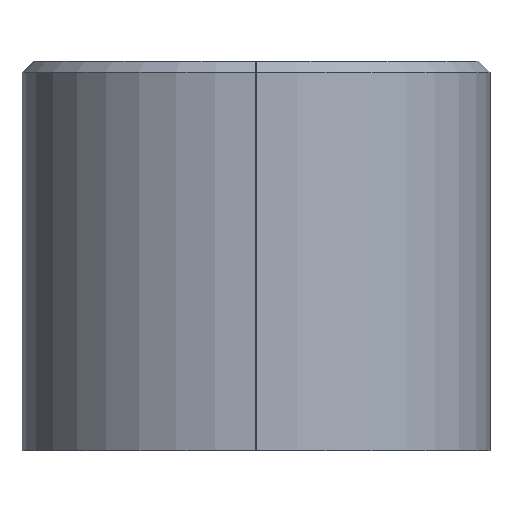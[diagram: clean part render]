
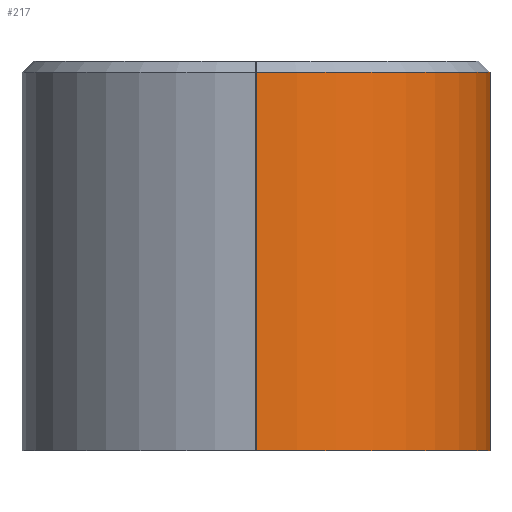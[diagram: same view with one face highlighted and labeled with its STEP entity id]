
A CAD part, left-side view. The second image highlights one B-rep face of the part: STEP entity #217.
In plain terms, the highlighted cylindrical face has radius 23.125 mm (diameter 46.25 mm), a partial arc.
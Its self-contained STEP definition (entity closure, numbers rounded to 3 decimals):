
#22 = VERTEX_POINT('',#23);
#23 = CARTESIAN_POINT('',(-182.985,-0.01,92.4));
#32 = PLANE('',#33);
#33 = AXIS2_PLACEMENT_3D('',#34,#35,#36);
#34 = CARTESIAN_POINT('',(-182.985,-23.135,55.));
#35 = DIRECTION('',(1.,0.,0.));
#36 = DIRECTION('',(0.,0.,1.));
#56 = EDGE_CURVE('',#57,#22,#59,.T.);
#57 = VERTEX_POINT('',#58);
#58 = CARTESIAN_POINT('',(-182.985,-0.01,55.));
#59 = SURFACE_CURVE('',#60,(#64,#71),.PCURVE_S1.);
#60 = LINE('',#61,#62);
#61 = CARTESIAN_POINT('',(-182.985,-0.01,55.));
#62 = VECTOR('',#63,1.);
#63 = DIRECTION('',(0.,0.,1.));
#64 = PCURVE('',#32,#65);
#65 = DEFINITIONAL_REPRESENTATION('',(#66),#70);
#66 = LINE('',#67,#68);
#67 = CARTESIAN_POINT('',(0.,-23.125));
#68 = VECTOR('',#69,1.);
#69 = DIRECTION('',(1.,0.));
#70 = ( GEOMETRIC_REPRESENTATION_CONTEXT(2) 
PARAMETRIC_REPRESENTATION_CONTEXT() REPRESENTATION_CONTEXT('2D SPACE',''
  ) );
#71 = PCURVE('',#72,#77);
#72 = CYLINDRICAL_SURFACE('',#73,23.125);
#73 = AXIS2_PLACEMENT_3D('',#74,#75,#76);
#74 = CARTESIAN_POINT('',(-159.86,-0.01,55.));
#75 = DIRECTION('',(0.,0.,1.));
#76 = DIRECTION('',(-1.,-0.,0.));
#77 = DEFINITIONAL_REPRESENTATION('',(#78),#82);
#78 = LINE('',#79,#80);
#79 = CARTESIAN_POINT('',(0.,0.));
#80 = VECTOR('',#81,1.);
#81 = DIRECTION('',(0.,1.));
#82 = ( GEOMETRIC_REPRESENTATION_CONTEXT(2) 
PARAMETRIC_REPRESENTATION_CONTEXT() REPRESENTATION_CONTEXT('2D SPACE',''
  ) );
#100 = PLANE('',#101);
#101 = AXIS2_PLACEMENT_3D('',#102,#103,#104);
#102 = CARTESIAN_POINT('',(-182.985,-23.135,55.));
#103 = DIRECTION('',(0.,0.,1.));
#104 = DIRECTION('',(1.,0.,0.));
#156 = CONICAL_SURFACE('',#157,23.125,0.785);
#157 = AXIS2_PLACEMENT_3D('',#158,#159,#160);
#158 = CARTESIAN_POINT('',(-159.86,-0.01,92.4));
#159 = DIRECTION('',(-0.,-0.,-1.));
#160 = DIRECTION('',(0.,-1.,0.));
#217 = ADVANCED_FACE('',(#218),#72,.T.);
#218 = FACE_BOUND('',#219,.T.);
#219 = EDGE_LOOP('',(#220,#244,#272,#294));
#220 = ORIENTED_EDGE('',*,*,#221,.T.);
#221 = EDGE_CURVE('',#57,#222,#224,.T.);
#222 = VERTEX_POINT('',#223);
#223 = CARTESIAN_POINT('',(-159.86,-23.135,55.));
#224 = SURFACE_CURVE('',#225,(#230,#237),.PCURVE_S1.);
#225 = CIRCLE('',#226,23.125);
#226 = AXIS2_PLACEMENT_3D('',#227,#228,#229);
#227 = CARTESIAN_POINT('',(-159.86,-0.01,55.));
#228 = DIRECTION('',(0.,0.,1.));
#229 = DIRECTION('',(0.,-1.,0.));
#230 = PCURVE('',#72,#231);
#231 = DEFINITIONAL_REPRESENTATION('',(#232),#236);
#232 = LINE('',#233,#234);
#233 = CARTESIAN_POINT('',(-4.712,0.));
#234 = VECTOR('',#235,1.);
#235 = DIRECTION('',(1.,0.));
#236 = ( GEOMETRIC_REPRESENTATION_CONTEXT(2) 
PARAMETRIC_REPRESENTATION_CONTEXT() REPRESENTATION_CONTEXT('2D SPACE',''
  ) );
#237 = PCURVE('',#100,#238);
#238 = DEFINITIONAL_REPRESENTATION('',(#239),#243);
#239 = CIRCLE('',#240,23.125);
#240 = AXIS2_PLACEMENT_2D('',#241,#242);
#241 = CARTESIAN_POINT('',(23.125,23.125));
#242 = DIRECTION('',(0.,-1.));
#243 = ( GEOMETRIC_REPRESENTATION_CONTEXT(2) 
PARAMETRIC_REPRESENTATION_CONTEXT() REPRESENTATION_CONTEXT('2D SPACE',''
  ) );
#244 = ORIENTED_EDGE('',*,*,#245,.T.);
#245 = EDGE_CURVE('',#222,#246,#248,.T.);
#246 = VERTEX_POINT('',#247);
#247 = CARTESIAN_POINT('',(-159.86,-23.135,92.4));
#248 = SURFACE_CURVE('',#249,(#253,#260),.PCURVE_S1.);
#249 = LINE('',#250,#251);
#250 = CARTESIAN_POINT('',(-159.86,-23.135,55.));
#251 = VECTOR('',#252,1.);
#252 = DIRECTION('',(0.,0.,1.));
#253 = PCURVE('',#72,#254);
#254 = DEFINITIONAL_REPRESENTATION('',(#255),#259);
#255 = LINE('',#256,#257);
#256 = CARTESIAN_POINT('',(1.571,0.));
#257 = VECTOR('',#258,1.);
#258 = DIRECTION('',(0.,1.));
#259 = ( GEOMETRIC_REPRESENTATION_CONTEXT(2) 
PARAMETRIC_REPRESENTATION_CONTEXT() REPRESENTATION_CONTEXT('2D SPACE',''
  ) );
#260 = PCURVE('',#261,#266);
#261 = PLANE('',#262);
#262 = AXIS2_PLACEMENT_3D('',#263,#264,#265);
#263 = CARTESIAN_POINT('',(-182.985,-23.135,55.));
#264 = DIRECTION('',(0.,1.,0.));
#265 = DIRECTION('',(0.,0.,1.));
#266 = DEFINITIONAL_REPRESENTATION('',(#267),#271);
#267 = LINE('',#268,#269);
#268 = CARTESIAN_POINT('',(0.,23.125));
#269 = VECTOR('',#270,1.);
#270 = DIRECTION('',(1.,0.));
#271 = ( GEOMETRIC_REPRESENTATION_CONTEXT(2) 
PARAMETRIC_REPRESENTATION_CONTEXT() REPRESENTATION_CONTEXT('2D SPACE',''
  ) );
#272 = ORIENTED_EDGE('',*,*,#273,.F.);
#273 = EDGE_CURVE('',#22,#246,#274,.T.);
#274 = SURFACE_CURVE('',#275,(#280,#287),.PCURVE_S1.);
#275 = CIRCLE('',#276,23.125);
#276 = AXIS2_PLACEMENT_3D('',#277,#278,#279);
#277 = CARTESIAN_POINT('',(-159.86,-0.01,92.4));
#278 = DIRECTION('',(0.,0.,1.));
#279 = DIRECTION('',(0.,-1.,0.));
#280 = PCURVE('',#72,#281);
#281 = DEFINITIONAL_REPRESENTATION('',(#282),#286);
#282 = LINE('',#283,#284);
#283 = CARTESIAN_POINT('',(-4.712,37.4));
#284 = VECTOR('',#285,1.);
#285 = DIRECTION('',(1.,0.));
#286 = ( GEOMETRIC_REPRESENTATION_CONTEXT(2) 
PARAMETRIC_REPRESENTATION_CONTEXT() REPRESENTATION_CONTEXT('2D SPACE',''
  ) );
#287 = PCURVE('',#156,#288);
#288 = DEFINITIONAL_REPRESENTATION('',(#289),#293);
#289 = LINE('',#290,#291);
#290 = CARTESIAN_POINT('',(-0.,-0.));
#291 = VECTOR('',#292,1.);
#292 = DIRECTION('',(-1.,-0.));
#293 = ( GEOMETRIC_REPRESENTATION_CONTEXT(2) 
PARAMETRIC_REPRESENTATION_CONTEXT() REPRESENTATION_CONTEXT('2D SPACE',''
  ) );
#294 = ORIENTED_EDGE('',*,*,#56,.F.);
